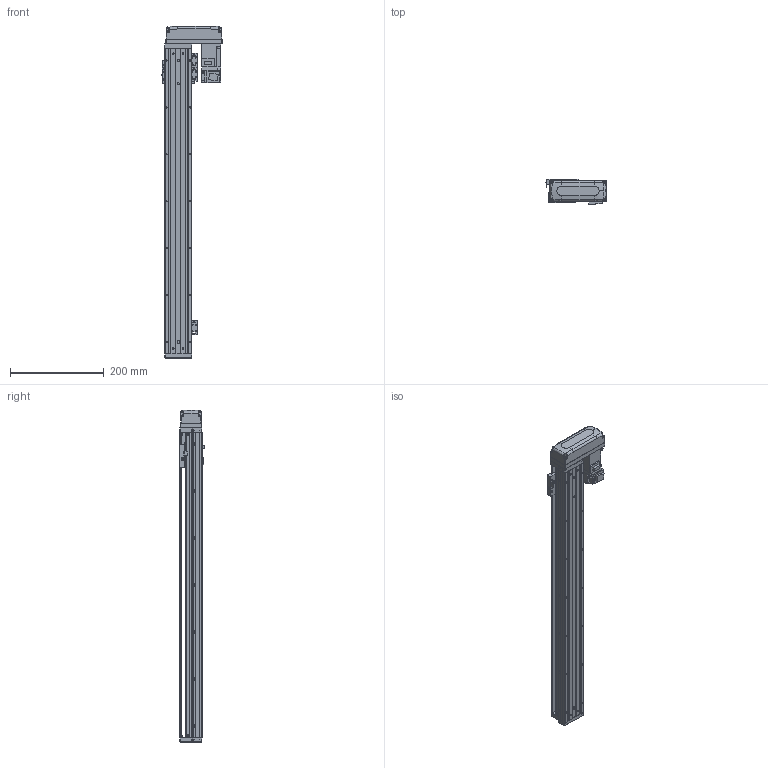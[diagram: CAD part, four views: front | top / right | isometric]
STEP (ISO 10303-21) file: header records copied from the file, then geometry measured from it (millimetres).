
FILE_DESCRIPTION (( 'STEP AP203' ), '1' );
FILE_NAME ('KTHA50-550-BL-M10-C4L.step', '2022-03-19T07:07:05', ( '微软用户' ), ( '微软中国' ), 'SwSTEP 2.0', 'SolidWorks 2020', '' );
FILE_SCHEMA (( 'CONFIG_CONTROL_DESIGN' ));
Length unit declared in the file: millimetre
Products named in the file (18): GBT 70.1-M4×12; GBT 70.1-M3×15; KTHA50-005; CTHA60-016; KTHA50-550-BL-M10-C4L; GB¨uT 70.2-M3¡Á6_M3¡Á6; CTHA60-021; EE_SX911P_R; GBT 70.3-M3℅6; GBT77-2000 M3×3; HG-KR13（三菱）; KTHA50-001_650; GBT 70.1-M3℅6; CTHA50-015-2_CTHA60-015-2; KTHA50-002; CTHA60-017; CTHA60-033; KTHA50-004
Assembly tree (53 placements, depth 2):
  KTHA50-550-BL-M10-C4L
    KTHA50-001_650
    KTHA50-002
    KTHA50-004
    KTHA50-005
    GB¨uT 70.2-M3¡Á6_M3¡Á6  x6
    EE_SX911P_R  x3
    GBT77-2000 M3×3  x6
    GBT 70.1-M3℅6  x6
    CTHA60-017  x3
    GBT 70.1-M4×12  x10
    CTHA60-016  x2
    CTHA60-021  x2
    GBT 70.3-M3℅6  x4
    HG-KR13（三菱）
    CTHA50-015-2_CTHA60-015-2
    CTHA60-033
    GBT 70.1-M3×15  x4
Bounding box: 128.4 x 53.3 x 707 mm (x, y, z)
Volume: 1422466.2 mm3; surface area: 348308 mm2
Topology: 56 solids, 56 shells, 2283 faces, 5407 edges, 3316 vertices
Faces by surface type: plane 1276, cylinder 556, cone 309, torus 100, bspline 26, sphere 16
Entity records: 38881 total; most frequent: CARTESIAN_POINT 7346, DIRECTION 6075, ORIENTED_EDGE 5826, EDGE_CURVE 2913, AXIS2_PLACEMENT_3D 2061, VECTOR 1953, LINE 1953, VERTEX_POINT 1830
